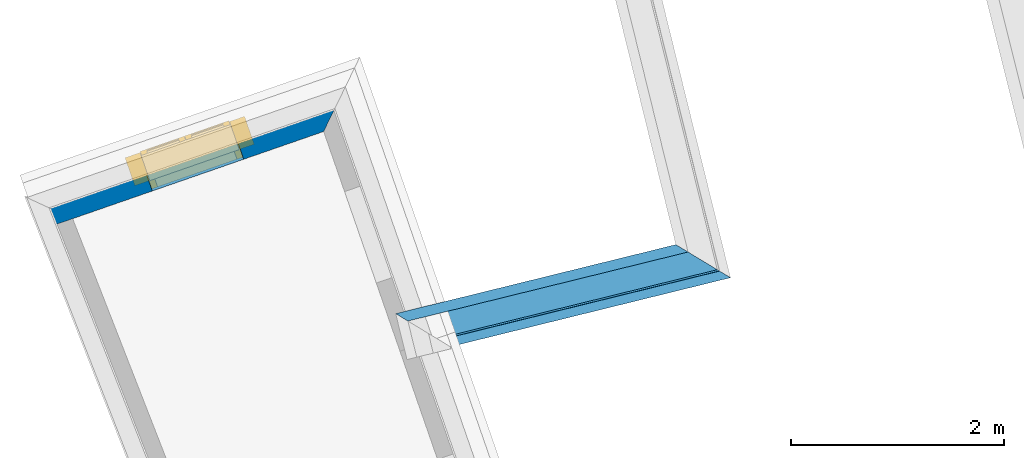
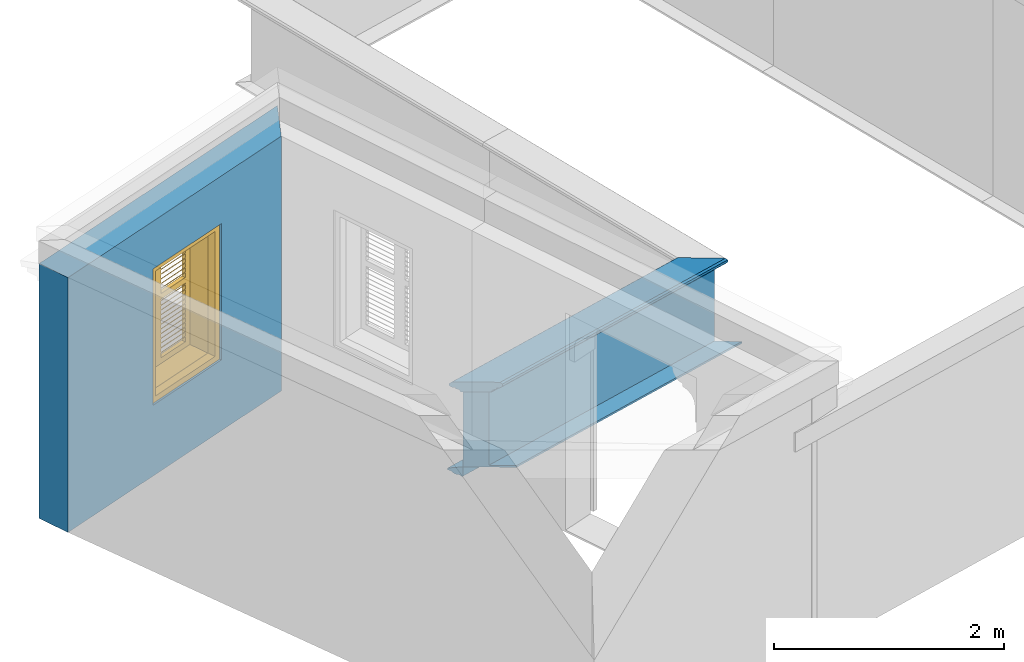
# One storey, part 2 of 5: 4 walls, 1 window, 1 opening.
"""IFC4 building model written with IfcOpenShell, lengths in metres."""

from ifc_helpers import new_model, si_unit, frame, origin, origin_with_axes, place, context, subcontext, project, spatial, polyline, outline, extrude, clip, halfspace, faceted_brep, source, transform, mapped, material, layer, layer_set, layer_usage, material_profile, profile_set, profile_usage, type_object, type_shapes, element, fill, save


model = new_model("IFC4")

# Units and contexts
model_context = context("Model", 3, world=origin_with_axes())
body_context = subcontext(model_context, "Body", "Model", "MODEL_VIEW")
ifc_project = project(units=[si_unit("PLANEANGLEUNIT", "RADIAN"), si_unit("MASSUNIT", "GRAM", prefix="KILO"), si_unit("FORCEUNIT", "NEWTON", prefix="KILO"), si_unit("LENGTHUNIT", "METRE"), si_unit("AREAUNIT", "SQUARE_METRE"), si_unit("VOLUMEUNIT", "CUBIC_METRE")], contexts=[model_context, model_context])

# Site, building, storey
site_placement = place(None, origin_with_axes())
site = spatial("IfcSite", under=ifc_project, at=site_placement, Name="Site plot-1", CompositionType="ELEMENT")
building_placement = place(None, origin_with_axes())
building = spatial("IfcBuilding", under=site, at=building_placement, Name="Building plot-1", CompositionType="ELEMENT")
storey_placement = place(None, frame((0.0, 0.0, 5.4), z_axis=(0.0, 0.0, 1.0), x_axis=(1.0, 0.0, 0.0)))
storey = spatial("IfcBuildingStorey", under=building, at=storey_placement, Name="plot-1 2", CompositionType="ELEMENT", Elevation=5.4)

# Wall, opening, window
ifc_material = material(Name="Masonry")
ifc_layer = layer(ifc_material, 0.33, ventilated=False)
ifc_layer_set = layer_set([ifc_layer], Name="exterior_0.08_0.25")
ifc_layer_usage = layer_usage(ifc_layer_set, "AXIS2", "POSITIVE", -0.25)
wall_type_1 = type_object("IfcWallType", Name="exterior_0.08_0.25", PredefinedType="SOLIDWALL", material=ifc_layer_set)
wall_1_placement = place(storey_placement, frame((-0.524368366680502, 19.9898284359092, 0.0), z_axis=(0.0, 0.0, 1.0), x_axis=(-0.944647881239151, -0.328085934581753, 0.0)))
wall_1 = element("IfcWall", 1, at=wall_1_placement, inside=storey, type_object=wall_type_1, material=ifc_layer_usage, Name="exterior", context=body_context, shape_type="SweptSolid", body=[
    extrude(outline(polyline([(0.0799999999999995, 0.0799999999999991), (-0.249999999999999, -0.249999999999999), (2.91117707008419, -0.25), (2.91117707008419, 0.0799999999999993), (0.0799999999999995, 0.0799999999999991)])), origin_with_axes(), (0.0, 0.0, 1.0), 2.7),
])
opening_placement = place(wall_1_placement, frame((0.875588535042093, 0.0, 0.75)))
opening = element("IfcOpeningElement", 2, at=opening_placement, cuts=wall_1, Name="My Opening", ObjectType="Opening", context=body_context, shape_type="SweptSolid", body=[
    extrude(outline(polyline([(0.0, -0.269999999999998), (0.909999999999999, -0.27), (0.909999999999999, 1.1), (3.33066907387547e-16, 1.1), (0.0, -0.269999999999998)])), origin_with_axes(), (0.0, 0.0, 1.0), 1.445),
])
window_type = type_object("IfcWindowType", Name="shuttered_shorter", PartitioningType="DOUBLE_PANEL_HORIZONTAL", PredefinedType="NOTDEFINED")
shared_shape = source(origin(), body_context, "Body", "Brep", [
    faceted_brep([(0.393, 0.0, 0.622), (0.074, 0.0, 0.622), (0.074, 0.0, 0.632), (0.393, 0.0, 0.632), (0.074, -0.04, 0.592), (0.393, -0.04, 0.592), (0.393, -0.04, 0.582), (0.074, -0.04, 0.582), (0.517, 0.0, 0.682), (0.836, 0.0, 0.682), (0.836, 0.0, 0.672), (0.517, 0.0, 0.672), (0.517, -0.04, 0.642), (0.836, -0.04, 0.642), (0.836, -0.04, 0.632), (0.517, -0.04, 0.632), (0.517, 0.0, 0.632), (0.836, 0.0, 0.632), (0.836, 0.0, 0.622), (0.517, 0.0, 0.622), (0.517, -0.04, 0.592), (0.836, -0.04, 0.592), (0.836, -0.04, 0.582), (0.517, -0.04, 0.582), (0.517, 0.0, 0.232), (0.836, 0.0, 0.232), (0.836, 0.0, 0.222), (0.517, 0.0, 0.222), (0.517, -0.04, 0.192), (0.836, -0.04, 0.192), (0.836, -0.04, 0.182), (0.517, -0.04, 0.182), (0.517, 0.0, 0.532), (0.836, 0.0, 0.532), (0.836, 0.0, 0.522), (0.517, 0.0, 0.522), (0.517, -0.04, 0.492), (0.836, -0.04, 0.492), (0.836, -0.04, 0.482), (0.517, -0.04, 0.482), (0.517, 0.0, 0.482), (0.836, 0.0, 0.482), (0.836, 0.0, 0.472), (0.517, 0.0, 0.472), (0.517, -0.04, 0.442), (0.836, -0.04, 0.442), (0.836, -0.04, 0.432), (0.517, -0.04, 0.432), (0.517, 0.0, 0.582), (0.836, 0.0, 0.582), (0.836, 0.0, 0.572), (0.517, 0.0, 0.572), (0.517, -0.04, 0.542), (0.836, -0.04, 0.542), (0.836, -0.04, 0.532), (0.517, -0.04, 0.532), (0.517, 0.0, 0.182), (0.836, 0.0, 0.182), (0.836, 0.0, 0.172), (0.517, 0.0, 0.172), (0.517, -0.04, 0.142), (0.836, -0.04, 0.142), (0.836, -0.04, 0.132), (0.517, -0.04, 0.132), (0.517, 0.0, 0.382), (0.836, 0.0, 0.382), (0.836, 0.0, 0.372), (0.517, 0.0, 0.372), (0.517, -0.04, 0.342), (0.836, -0.04, 0.342), (0.836, -0.04, 0.332), (0.517, -0.04, 0.332), (0.517, 0.0, 0.432), (0.836, 0.0, 0.432), (0.836, 0.0, 0.422), (0.517, 0.0, 0.422), (0.517, -0.04, 0.392), (0.836, -0.04, 0.392), (0.836, -0.04, 0.382), (0.517, -0.04, 0.382), (0.517, 0.0, 0.132), (0.836, 0.0, 0.132), (0.836, 0.0, 0.122), (0.517, 0.0, 0.122), (0.517, -0.04, 0.092), (0.836, -0.04, 0.092), (0.836, -0.04, 0.082), (0.517, -0.04, 0.082), (0.517, 0.0, 0.282), (0.836, 0.0, 0.282), (0.836, 0.0, 0.272), (0.517, 0.0, 0.272), (0.517, -0.04, 0.242), (0.836, -0.04, 0.242), (0.836, -0.04, 0.232), (0.517, -0.04, 0.232), (0.517, 0.0, 0.332), (0.836, 0.0, 0.332), (0.836, 0.0, 0.322), (0.517, 0.0, 0.322), (0.517, -0.04, 0.292), (0.836, -0.04, 0.292), (0.836, -0.04, 0.282), (0.517, -0.04, 0.282), (0.517, 0.0, 1.362667), (0.836, 0.0, 1.362667), (0.836, 0.0, 1.352667), (0.517, 0.0, 1.352667), (0.517, -0.04, 1.322667), (0.836, -0.04, 1.322667), (0.836, -0.04, 1.312667), (0.517, -0.04, 1.312667), (0.517, 0.0, 1.312667), (0.836, 0.0, 1.312667), (0.836, 0.0, 1.302667), (0.517, 0.0, 1.302667), (0.517, -0.04, 1.272667), (0.836, -0.04, 1.272667), (0.836, -0.04, 1.262667), (0.517, -0.04, 1.262667), (0.517, 0.0, 0.912667), (0.836, 0.0, 0.912667), (0.836, 0.0, 0.902667), (0.517, 0.0, 0.902667), (0.517, -0.04, 0.872667), (0.836, -0.04, 0.872667), (0.836, -0.04, 0.862667), (0.517, -0.04, 0.862667), (0.517, 0.0, 1.212667), (0.836, 0.0, 1.212667), (0.836, 0.0, 1.202667), (0.517, 0.0, 1.202667), (0.517, -0.04, 1.172667), (0.836, -0.04, 1.172667), (0.836, -0.04, 1.162667), (0.517, -0.04, 1.162667), (0.517, 0.0, 1.162667), (0.836, 0.0, 1.162667), (0.836, 0.0, 1.152667), (0.517, 0.0, 1.152667), (0.517, -0.04, 1.122667), (0.836, -0.04, 1.122667), (0.836, -0.04, 1.112667), (0.517, -0.04, 1.112667), (0.517, 0.0, 1.262667), (0.836, 0.0, 1.262667), (0.836, 0.0, 1.252667), (0.517, 0.0, 1.252667), (0.517, -0.04, 1.222667), (0.836, -0.04, 1.222667), (0.836, -0.04, 1.212667), (0.517, -0.04, 1.212667), (0.517, 0.0, 0.862667), (0.836, 0.0, 0.862667), (0.836, 0.0, 0.852667), (0.517, 0.0, 0.852667), (0.517, -0.04, 0.822667), (0.836, -0.04, 0.822667), (0.836, -0.04, 0.812667), (0.517, -0.04, 0.812667), (0.517, 0.0, 1.062667), (0.836, 0.0, 1.062667), (0.836, 0.0, 1.052667), (0.517, 0.0, 1.052667), (0.517, -0.04, 1.022667), (0.836, -0.04, 1.022667), (0.836, -0.04, 1.012667), (0.517, -0.04, 1.012667), (0.517, 0.0, 1.112667), (0.836, 0.0, 1.112667), (0.836, 0.0, 1.102667), (0.517, 0.0, 1.102667), (0.517, -0.04, 1.072667), (0.836, -0.04, 1.072667), (0.836, -0.04, 1.062667), (0.517, -0.04, 1.062667), (0.517, 0.0, 0.812667), (0.836, 0.0, 0.812667), (0.836, 0.0, 0.802667), (0.517, 0.0, 0.802667), (0.517, -0.04, 0.772667), (0.836, -0.04, 0.772667), (0.836, -0.04, 0.762667), (0.517, -0.04, 0.762667), (0.517, 0.0, 0.962667), (0.836, 0.0, 0.962667), (0.836, 0.0, 0.952667), (0.517, 0.0, 0.952667), (0.517, -0.04, 0.922667), (0.836, -0.04, 0.922667), (0.836, -0.04, 0.912667), (0.517, -0.04, 0.912667), (0.517, 0.0, 1.012667), (0.836, 0.0, 1.012667), (0.836, 0.0, 1.002667), (0.517, 0.0, 1.002667), (0.517, -0.04, 0.972667), (0.836, -0.04, 0.972667), (0.836, -0.04, 0.962667), (0.517, -0.04, 0.962667), (0.074, 0.0, 0.682), (0.393, 0.0, 0.682), (0.393, 0.0, 0.672), (0.074, 0.0, 0.672), (0.074, -0.04, 0.642), (0.393, -0.04, 0.642), (0.393, -0.04, 0.632), (0.074, -0.04, 0.632), (0.074, 0.0, 0.232), (0.393, 0.0, 0.232), (0.393, 0.0, 0.222), (0.074, 0.0, 0.222), (0.074, -0.04, 0.192), (0.393, -0.04, 0.192), (0.393, -0.04, 0.182), (0.074, -0.04, 0.182), (0.074, 0.0, 0.532), (0.393, 0.0, 0.532), (0.393, 0.0, 0.522), (0.074, 0.0, 0.522), (0.074, -0.04, 0.492), (0.393, -0.04, 0.492), (0.393, -0.04, 0.482), (0.074, -0.04, 0.482), (0.074, 0.0, 0.482), (0.393, 0.0, 0.482), (0.393, 0.0, 0.472), (0.074, 0.0, 0.472), (0.074, -0.04, 0.442), (0.393, -0.04, 0.442), (0.393, -0.04, 0.432), (0.074, -0.04, 0.432), (0.074, 0.0, 0.582), (0.393, 0.0, 0.582), (0.393, 0.0, 0.572), (0.074, 0.0, 0.572), (0.074, -0.04, 0.542), (0.393, -0.04, 0.542), (0.393, -0.04, 0.532), (0.074, -0.04, 0.532), (0.074, 0.0, 0.182), (0.393, 0.0, 0.182), (0.393, 0.0, 0.172), (0.074, 0.0, 0.172), (0.074, -0.04, 0.142), (0.393, -0.04, 0.142), (0.393, -0.04, 0.132), (0.074, -0.04, 0.132), (0.074, 0.0, 0.382), (0.393, 0.0, 0.382), (0.393, 0.0, 0.372), (0.074, 0.0, 0.372), (0.074, -0.04, 0.342), (0.393, -0.04, 0.342), (0.393, -0.04, 0.332), (0.074, -0.04, 0.332), (0.074, 0.0, 0.432), (0.393, 0.0, 0.432), (0.393, 0.0, 0.422), (0.074, 0.0, 0.422), (0.074, -0.04, 0.392), (0.393, -0.04, 0.392), (0.393, -0.04, 0.382), (0.074, -0.04, 0.382), (0.074, 0.0, 0.132), (0.393, 0.0, 0.132), (0.393, 0.0, 0.122), (0.074, 0.0, 0.122), (0.074, -0.04, 0.092), (0.393, -0.04, 0.092), (0.393, -0.04, 0.082), (0.074, -0.04, 0.082), (0.074, 0.0, 0.282), (0.393, 0.0, 0.282), (0.393, 0.0, 0.272), (0.074, 0.0, 0.272), (0.074, -0.04, 0.242), (0.393, -0.04, 0.242), (0.393, -0.04, 0.232), (0.074, -0.04, 0.232), (0.074, 0.0, 0.332), (0.393, 0.0, 0.332), (0.393, 0.0, 0.322), (0.074, 0.0, 0.322), (0.074, -0.04, 0.292), (0.393, -0.04, 0.292), (0.393, -0.04, 0.282), (0.074, -0.04, 0.282), (0.074, 0.0, 1.362667), (0.393, 0.0, 1.362667), (0.393, 0.0, 1.352667), (0.074, 0.0, 1.352667), (0.074, -0.04, 1.322667), (0.393, -0.04, 1.322667), (0.393, -0.04, 1.312667), (0.074, -0.04, 1.312667), (0.074, 0.0, 1.312667), (0.393, 0.0, 1.312667), (0.393, 0.0, 1.302667), (0.074, 0.0, 1.302667), (0.074, -0.04, 1.272667), (0.393, -0.04, 1.272667), (0.393, -0.04, 1.262667), (0.074, -0.04, 1.262667), (0.074, 0.0, 0.912667), (0.393, 0.0, 0.912667), (0.393, 0.0, 0.902667), (0.074, 0.0, 0.902667), (0.074, -0.04, 0.872667), (0.393, -0.04, 0.872667), (0.393, -0.04, 0.862667), (0.074, -0.04, 0.862667), (0.074, 0.0, 1.212667), (0.393, 0.0, 1.212667), (0.393, 0.0, 1.202667), (0.074, 0.0, 1.202667), (0.074, -0.04, 1.172667), (0.393, -0.04, 1.172667), (0.393, -0.04, 1.162667), (0.074, -0.04, 1.162667), (0.074, 0.0, 1.162667), (0.393, 0.0, 1.162667), (0.393, 0.0, 1.152667), (0.074, 0.0, 1.152667), (0.074, -0.04, 1.122667), (0.393, -0.04, 1.122667), (0.393, -0.04, 1.112667), (0.074, -0.04, 1.112667), (0.074, 0.0, 1.262667), (0.393, 0.0, 1.262667), (0.393, 0.0, 1.252667), (0.074, 0.0, 1.252667), (0.074, -0.04, 1.222667), (0.393, -0.04, 1.222667), (0.393, -0.04, 1.212667), (0.074, -0.04, 1.212667), (0.074, 0.0, 0.862667), (0.393, 0.0, 0.862667), (0.393, 0.0, 0.852667), (0.074, 0.0, 0.852667), (0.074, -0.04, 0.822667), (0.393, -0.04, 0.822667), (0.393, -0.04, 0.812667), (0.074, -0.04, 0.812667), (0.074, 0.0, 1.062667), (0.393, 0.0, 1.062667), (0.393, 0.0, 1.052667), (0.074, 0.0, 1.052667), (0.074, -0.04, 1.022667), (0.393, -0.04, 1.022667), (0.393, -0.04, 1.012667), (0.074, -0.04, 1.012667), (0.074, 0.0, 1.112667), (0.393, 0.0, 1.112667), (0.393, 0.0, 1.102667), (0.074, 0.0, 1.102667), (0.074, -0.04, 1.072667), (0.393, -0.04, 1.072667), (0.393, -0.04, 1.062667), (0.074, -0.04, 1.062667), (0.074, 0.0, 0.812667), (0.393, 0.0, 0.812667), (0.393, 0.0, 0.802667), (0.074, 0.0, 0.802667), (0.074, -0.04, 0.772667), (0.393, -0.04, 0.772667), (0.393, -0.04, 0.762667), (0.074, -0.04, 0.762667), (0.074, 0.0, 0.962667), (0.393, 0.0, 0.962667), (0.393, 0.0, 0.952667), (0.074, 0.0, 0.952667), (0.074, -0.04, 0.922667), (0.393, -0.04, 0.922667), (0.393, -0.04, 0.912667), (0.074, -0.04, 0.912667), (0.074, 0.0, 1.012667), (0.393, 0.0, 1.012667), (0.393, 0.0, 1.002667), (0.074, 0.0, 1.002667), (0.074, -0.04, 0.972667), (0.393, -0.04, 0.972667), (0.393, -0.04, 0.962667), (0.074, -0.04, 0.962667), (0.517, -0.04, 0.072), (0.457, -0.04, 0.012), (0.896, -0.04, 0.012), (0.836, -0.04, 0.072), (0.457, -0.04, 0.692667), (0.517, -0.04, 0.692667), (0.457, 0.0, 0.012), (0.896, 0.0, 0.012), (0.836, -0.04, 0.692667), (0.896, -0.04, 0.692667), (0.836, 0.0, 0.072), (0.517, 0.0, 0.072), (0.457, 0.0, 0.692667), (0.517, 0.0, 0.692667), (0.517, -0.04, 0.752666), (0.457, -0.04, 0.752666), (0.896, 0.0, 0.692667), (0.836, 0.0, 0.692667), (0.836, -0.04, 0.752666), (0.896, -0.04, 0.752666), (0.457, 0.0, 0.752666), (0.457, -0.04, 1.433333), (0.517, -0.04, 1.373333), (0.896, 0.0, 0.752666), (0.836, -0.04, 1.373333), (0.896, -0.04, 1.433333), (0.457, 0.0, 1.433333), (0.517, 0.0, 0.752666), (0.836, 0.0, 0.752666), (0.517, 0.0, 1.373333), (0.896, 0.0, 1.433333), (0.836, 0.0, 1.373333), (0.074, -0.04, 0.072), (0.014, -0.04, 0.012), (0.453, -0.04, 0.012), (0.393, -0.04, 0.072), (0.014, -0.04, 0.692667), (0.074, -0.04, 0.692667), (0.014, 0.0, 0.012), (0.453, 0.0, 0.012), (0.393, -0.04, 0.692667), (0.453, -0.04, 0.692667), (0.393, 0.0, 0.072), (0.074, 0.0, 0.072), (0.014, 0.0, 0.692667), (0.074, 0.0, 0.692667), (0.074, -0.04, 0.752666), (0.014, -0.04, 0.752666), (0.453, 0.0, 0.692667), (0.393, 0.0, 0.692667), (0.393, -0.04, 0.752666), (0.453, -0.04, 0.752666), (0.014, 0.0, 0.752666), (0.014, -0.04, 1.433333), (0.074, -0.04, 1.373333), (0.453, 0.0, 0.752666), (0.393, -0.04, 1.373333), (0.453, -0.04, 1.433333), (0.014, 0.0, 1.433333), (0.074, 0.0, 0.752666), (0.393, 0.0, 0.752666), (0.074, 0.0, 1.373333), (0.453, 0.0, 1.433333), (0.393, 0.0, 1.373333), (0.0, 0.33, 1.445), (0.91, 0.33, 1.445), (0.85, 0.33, 1.385), (0.06, 0.33, 1.385), (0.91, 0.25, 1.445), (0.0, 0.25, 1.445), (0.91, 0.25, 1.445), (0.85, 0.33, 0.06), (0.91, 0.33, 0.0), (0.85, 0.25, 1.385), (0.06, 0.25, 1.385), (0.0, 0.33, 0.0), (0.06, 0.33, 0.06), (0.0, 0.25, 0.0), (0.91, 0.25, 0.0), (0.85, 0.25, 0.06), (0.06, 0.25, 0.06), (1.05, 0.25, 1.585), (-0.14, 0.25, 1.585), (-0.14, -0.03, 1.585), (1.05, -0.03, 1.585), (0.9, -0.03, 1.435), (0.01, -0.03, 1.435), (0.01, 0.25, 1.435), (0.9, 0.25, 1.435), (0.9, 0.25, 0.01), (0.9, -0.03, 0.01), (1.05, -0.03, -0.14), (1.05, 0.25, -0.14), (0.01, -0.03, 0.01), (0.01, 0.25, 0.01), (-0.14, -0.03, -0.14), (-0.14, 0.25, -0.14)], [[[0, 1, 2, 3]], [[4, 5, 3, 2]], [[5, 6, 0, 3]], [[1, 0, 6, 7]], [[2, 1, 7, 4]], [[5, 4, 7, 6]], [[8, 9, 10, 11]], [[12, 13, 9, 8]], [[13, 14, 10, 9]], [[14, 15, 11, 10]], [[15, 12, 8, 11]], [[13, 12, 15, 14]], [[16, 17, 18, 19]], [[20, 21, 17, 16]], [[21, 22, 18, 17]], [[22, 23, 19, 18]], [[23, 20, 16, 19]], [[21, 20, 23, 22]], [[24, 25, 26, 27]], [[28, 29, 25, 24]], [[29, 30, 26, 25]], [[30, 31, 27, 26]], [[31, 28, 24, 27]], [[29, 28, 31, 30]], [[32, 33, 34, 35]], [[36, 37, 33, 32]], [[37, 38, 34, 33]], [[38, 39, 35, 34]], [[39, 36, 32, 35]], [[37, 36, 39, 38]], [[40, 41, 42, 43]], [[44, 45, 41, 40]], [[45, 46, 42, 41]], [[46, 47, 43, 42]], [[47, 44, 40, 43]], [[45, 44, 47, 46]], [[48, 49, 50, 51]], [[52, 53, 49, 48]], [[53, 54, 50, 49]], [[54, 55, 51, 50]], [[55, 52, 48, 51]], [[53, 52, 55, 54]], [[56, 57, 58, 59]], [[60, 61, 57, 56]], [[61, 62, 58, 57]], [[62, 63, 59, 58]], [[63, 60, 56, 59]], [[61, 60, 63, 62]], [[64, 65, 66, 67]], [[68, 69, 65, 64]], [[69, 70, 66, 65]], [[70, 71, 67, 66]], [[71, 68, 64, 67]], [[69, 68, 71, 70]], [[72, 73, 74, 75]], [[76, 77, 73, 72]], [[77, 78, 74, 73]], [[78, 79, 75, 74]], [[79, 76, 72, 75]], [[77, 76, 79, 78]], [[80, 81, 82, 83]], [[84, 85, 81, 80]], [[85, 86, 82, 81]], [[86, 87, 83, 82]], [[87, 84, 80, 83]], [[85, 84, 87, 86]], [[88, 89, 90, 91]], [[92, 93, 89, 88]], [[93, 94, 90, 89]], [[94, 95, 91, 90]], [[95, 92, 88, 91]], [[93, 92, 95, 94]], [[96, 97, 98, 99]], [[100, 101, 97, 96]], [[101, 102, 98, 97]], [[102, 103, 99, 98]], [[103, 100, 96, 99]], [[101, 100, 103, 102]], [[104, 105, 106, 107]], [[108, 109, 105, 104]], [[109, 110, 106, 105]], [[110, 111, 107, 106]], [[111, 108, 104, 107]], [[109, 108, 111, 110]], [[112, 113, 114, 115]], [[116, 117, 113, 112]], [[117, 118, 114, 113]], [[118, 119, 115, 114]], [[119, 116, 112, 115]], [[117, 116, 119, 118]], [[120, 121, 122, 123]], [[124, 125, 121, 120]], [[125, 126, 122, 121]], [[126, 127, 123, 122]], [[127, 124, 120, 123]], [[125, 124, 127, 126]], [[128, 129, 130, 131]], [[132, 133, 129, 128]], [[133, 134, 130, 129]], [[134, 135, 131, 130]], [[135, 132, 128, 131]], [[133, 132, 135, 134]], [[136, 137, 138, 139]], [[140, 141, 137, 136]], [[141, 142, 138, 137]], [[142, 143, 139, 138]], [[139, 143, 140, 136]], [[141, 140, 143, 142]], [[144, 145, 146, 147]], [[148, 149, 145, 144]], [[149, 150, 146, 145]], [[150, 151, 147, 146]], [[151, 148, 144, 147]], [[149, 148, 151, 150]], [[152, 153, 154, 155]], [[156, 157, 153, 152]], [[157, 158, 154, 153]], [[158, 159, 155, 154]], [[159, 156, 152, 155]], [[157, 156, 159, 158]], [[160, 161, 162, 163]], [[164, 165, 161, 160]], [[165, 166, 162, 161]], [[166, 167, 163, 162]], [[167, 164, 160, 163]], [[165, 164, 167, 166]], [[168, 169, 170, 171]], [[172, 173, 169, 168]], [[173, 174, 170, 169]], [[174, 175, 171, 170]], [[175, 172, 168, 171]], [[173, 172, 175, 174]], [[176, 177, 178, 179]], [[180, 181, 177, 176]], [[181, 182, 178, 177]], [[182, 183, 179, 178]], [[183, 180, 176, 179]], [[181, 180, 183, 182]], [[184, 185, 186, 187]], [[188, 189, 185, 184]], [[189, 190, 186, 185]], [[190, 191, 187, 186]], [[191, 188, 184, 187]], [[189, 188, 191, 190]], [[192, 193, 194, 195]], [[196, 197, 193, 192]], [[197, 198, 194, 193]], [[198, 199, 195, 194]], [[199, 196, 192, 195]], [[197, 196, 199, 198]], [[200, 201, 202, 203]], [[204, 205, 201, 200]], [[205, 206, 202, 201]], [[206, 207, 203, 202]], [[207, 204, 200, 203]], [[205, 204, 207, 206]], [[208, 209, 210, 211]], [[212, 213, 209, 208]], [[213, 214, 210, 209]], [[214, 215, 211, 210]], [[215, 212, 208, 211]], [[213, 212, 215, 214]], [[216, 217, 218, 219]], [[220, 221, 217, 216]], [[221, 222, 218, 217]], [[222, 223, 219, 218]], [[223, 220, 216, 219]], [[221, 220, 223, 222]], [[224, 225, 226, 227]], [[228, 229, 225, 224]], [[229, 230, 226, 225]], [[230, 231, 227, 226]], [[231, 228, 224, 227]], [[229, 228, 231, 230]], [[232, 233, 234, 235]], [[236, 237, 233, 232]], [[237, 238, 234, 233]], [[238, 239, 235, 234]], [[239, 236, 232, 235]], [[237, 236, 239, 238]], [[240, 241, 242, 243]], [[244, 245, 241, 240]], [[245, 246, 242, 241]], [[246, 247, 243, 242]], [[247, 244, 240, 243]], [[245, 244, 247, 246]], [[248, 249, 250, 251]], [[252, 253, 249, 248]], [[253, 254, 250, 249]], [[254, 255, 251, 250]], [[255, 252, 248, 251]], [[253, 252, 255, 254]], [[256, 257, 258, 259]], [[260, 261, 257, 256]], [[261, 262, 258, 257]], [[262, 263, 259, 258]], [[263, 260, 256, 259]], [[261, 260, 263, 262]], [[264, 265, 266, 267]], [[268, 269, 265, 264]], [[269, 270, 266, 265]], [[270, 271, 267, 266]], [[271, 268, 264, 267]], [[269, 268, 271, 270]], [[272, 273, 274, 275]], [[276, 277, 273, 272]], [[277, 278, 274, 273]], [[278, 279, 275, 274]], [[279, 276, 272, 275]], [[277, 276, 279, 278]], [[280, 281, 282, 283]], [[284, 285, 281, 280]], [[285, 286, 282, 281]], [[286, 287, 283, 282]], [[287, 284, 280, 283]], [[285, 284, 287, 286]], [[288, 289, 290, 291]], [[292, 293, 289, 288]], [[293, 294, 290, 289]], [[294, 295, 291, 290]], [[295, 292, 288, 291]], [[293, 292, 295, 294]], [[296, 297, 298, 299]], [[300, 301, 297, 296]], [[301, 302, 298, 297]], [[302, 303, 299, 298]], [[303, 300, 296, 299]], [[301, 300, 303, 302]], [[304, 305, 306, 307]], [[308, 309, 305, 304]], [[309, 310, 306, 305]], [[310, 311, 307, 306]], [[311, 308, 304, 307]], [[309, 308, 311, 310]], [[312, 313, 314, 315]], [[316, 317, 313, 312]], [[317, 318, 314, 313]], [[318, 319, 315, 314]], [[319, 316, 312, 315]], [[317, 316, 319, 318]], [[320, 321, 322, 323]], [[324, 325, 321, 320]], [[325, 326, 322, 321]], [[326, 327, 323, 322]], [[327, 324, 320, 323]], [[325, 324, 327, 326]], [[328, 329, 330, 331]], [[332, 333, 329, 328]], [[333, 334, 330, 329]], [[334, 335, 331, 330]], [[335, 332, 328, 331]], [[333, 332, 335, 334]], [[336, 337, 338, 339]], [[340, 341, 337, 336]], [[341, 342, 338, 337]], [[342, 343, 339, 338]], [[343, 340, 336, 339]], [[341, 340, 343, 342]], [[344, 345, 346, 347]], [[348, 349, 345, 344]], [[349, 350, 346, 345]], [[350, 351, 347, 346]], [[351, 348, 344, 347]], [[349, 348, 351, 350]], [[352, 353, 354, 355]], [[356, 357, 353, 352]], [[357, 358, 354, 353]], [[358, 359, 355, 354]], [[359, 356, 352, 355]], [[357, 356, 359, 358]], [[360, 361, 362, 363]], [[364, 365, 361, 360]], [[365, 366, 362, 361]], [[366, 367, 363, 362]], [[367, 364, 360, 363]], [[365, 364, 367, 366]], [[368, 369, 370, 371]], [[372, 373, 369, 368]], [[373, 374, 370, 369]], [[374, 375, 371, 370]], [[375, 372, 368, 371]], [[373, 372, 375, 374]], [[376, 377, 378, 379]], [[380, 381, 377, 376]], [[381, 382, 378, 377]], [[382, 383, 379, 378]], [[383, 380, 376, 379]], [[381, 380, 383, 382]], [[384, 385, 386, 387]], [[388, 385, 384, 389]], [[390, 391, 386, 385]], [[392, 387, 386, 393]], [[384, 387, 394, 395]], [[390, 385, 388, 396]], [[389, 384, 395, 397]], [[389, 398, 399, 388]], [[390, 395, 394, 391]], [[400, 393, 386, 391]], [[387, 392, 401, 394]], [[402, 392, 393, 403]], [[396, 388, 399, 404]], [[390, 396, 397, 395]], [[392, 389, 397, 401]], [[398, 389, 392, 402]], [[405, 399, 398, 406]], [[394, 401, 400, 391]], [[407, 403, 393, 400]], [[408, 402, 403, 409]], [[404, 399, 405, 410]], [[411, 397, 396, 404]], [[397, 411, 412, 401]], [[398, 402, 412, 411]], [[406, 398, 411, 413]], [[405, 406, 408, 409]], [[401, 412, 407, 400]], [[414, 409, 403, 407]], [[402, 408, 415, 412]], [[405, 409, 414, 410]], [[404, 410, 413, 411]], [[408, 406, 413, 415]], [[412, 415, 414, 407]], [[413, 410, 414, 415]], [[416, 417, 418, 419]], [[420, 417, 416, 421]], [[422, 423, 418, 417]], [[424, 419, 418, 425]], [[416, 419, 426, 427]], [[422, 417, 420, 428]], [[421, 416, 427, 429]], [[421, 430, 431, 420]], [[422, 427, 426, 423]], [[432, 425, 418, 423]], [[419, 424, 433, 426]], [[434, 424, 425, 435]], [[428, 420, 431, 436]], [[422, 428, 429, 427]], [[424, 421, 429, 433]], [[430, 421, 424, 434]], [[437, 431, 430, 438]], [[426, 433, 432, 423]], [[439, 435, 425, 432]], [[440, 434, 435, 441]], [[436, 431, 437, 442]], [[443, 429, 428, 436]], [[429, 443, 444, 433]], [[430, 434, 444, 443]], [[438, 430, 443, 445]], [[437, 438, 440, 441]], [[433, 444, 439, 432]], [[446, 441, 435, 439]], [[434, 440, 447, 444]], [[437, 441, 446, 442]], [[436, 442, 445, 443]], [[440, 438, 445, 447]], [[444, 447, 446, 439]], [[445, 442, 446, 447]], [[448, 449, 450, 451]], [[452, 449, 448]], [[448, 453, 454]], [[448, 454, 452]], [[455, 450, 449, 456]], [[451, 450, 457, 458]], [[459, 448, 451, 460]], [[448, 459, 461, 453]], [[454, 453, 458, 457]], [[462, 452, 454]], [[454, 457, 463]], [[454, 463, 462]], [[456, 449, 452, 462]], [[450, 455, 463, 457]], [[456, 459, 460, 455]], [[460, 451, 458, 464]], [[459, 456, 462, 461]], [[464, 458, 453, 461]], [[461, 462, 463, 464]], [[455, 460, 464, 463]], [[465, 466, 467, 468]], [[469, 470, 471, 472]], [[473, 474, 469, 472]], [[465, 468, 475, 476]], [[470, 477, 478, 471]], [[474, 473, 478, 477]], [[474, 477, 479, 475]], [[470, 467, 479, 477]], [[470, 469, 468, 467]], [[474, 475, 468, 469]], [[471, 478, 480, 466]], [[473, 472, 465, 476]], [[473, 476, 480, 478]], [[466, 465, 472, 471]], [[480, 476, 475, 479]], [[480, 479, 467, 466]]]),
])
type_shapes(window_type, [shared_shape])
window_placement = place(storey_placement, frame((-1.44007442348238, 19.9576150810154, 0.75), z_axis=(0.0, 0.0, 1.0), x_axis=(-0.859629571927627, -0.298558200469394, 0.0)))
window = element("IfcWindow", 3, at=window_placement, inside=storey, type_object=window_type, Name="circulation outside window", OverallHeight=1.445, OverallWidth=0.91, context=body_context, shape_type="MappedRepresentation", body=[
    mapped(shared_shape, transform((0.0, 0.0, 0.0), scale=1.0)),
])
fill(opening, window)

# Walls
ifc_material_profile_1 = material_profile(None, outline(polyline([(0.25, 0.0), (0.25, 0.795), (0.09, 0.795), (0.09, 0.02), (-0.08, 0.02), (-0.08, 0.0), (0.25, 0.0)])))
ifc_profile_set_1 = profile_set([ifc_material_profile_1])
ifc_profile_usage_1 = profile_usage(ifc_profile_set_1)
wall_type_2 = type_object("IfcWallType", Name="parapet internal_0", PredefinedType="PARAPET", material=ifc_profile_set_1)
wall_2_placement = place(storey_placement, frame((-0.45096894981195, 17.6844138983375, 0.0), z_axis=(0.970961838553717, 0.239234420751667, 0.0), x_axis=(-0.239234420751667, 0.970961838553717, 0.0)))
element("IfcWall", 4, at=wall_2_placement, inside=storey, type_object=wall_type_2, material=ifc_profile_usage_1, Name="parapet internal_0", context=body_context, shape_type="Clipping", body=[
    clip(clip(extrude(outline(polyline([(0.25, 0.0), (0.25, 0.795), (0.09, 0.795), (0.09, 0.02), (-0.08, 0.02), (-0.08, 0.0), (0.25, 0.0)])), origin_with_axes(), (0.0, 0.0, 1.0), 4.71253194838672), halfspace(frame((0.0, 0.0, 3.71253194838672), z_axis=(-0.707106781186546, 0.0, -0.707106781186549), x_axis=(0.0, 1.0, 0.0)), True)), halfspace(frame((0.0, 0.0, 1.0), z_axis=(-0.707106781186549, 0.0, -0.707106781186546), x_axis=(0.0, 1.0, 0.0)), False)),
])
ifc_material_profile_2 = material_profile(None, outline(polyline([(0.265, 0.795), (0.268, 0.807), (0.274, 0.816), (0.283, 0.822), (0.295, 0.825), (0.295, 0.84), (0.305, 0.84), (0.317, 0.842), (0.326, 0.849), (0.333, 0.858), (0.335, 0.87), (0.333, 0.882), (0.326, 0.891), (0.317, 0.898), (0.305, 0.9), (0.035, 0.9), (0.023, 0.898), (0.014, 0.891), (0.007, 0.882), (0.005, 0.87), (0.007, 0.858), (0.014, 0.849), (0.023, 0.842), (0.035, 0.84), (0.045, 0.84), (0.045, 0.825), (0.057, 0.822), (0.066, 0.816), (0.072, 0.807), (0.075, 0.795), (0.265, 0.795)])))
ifc_profile_set_2 = profile_set([ifc_material_profile_2])
ifc_profile_usage_2 = profile_usage(ifc_profile_set_2)
wall_type_3 = type_object("IfcWallType", Name="parapet internal_1", PredefinedType="PARAPET", material=ifc_profile_set_2)
wall_3_placement = place(storey_placement, frame((-0.45096894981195, 17.6844138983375, 0.0), z_axis=(0.970961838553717, 0.239234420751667, 0.0), x_axis=(-0.239234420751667, 0.970961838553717, 0.0)))
element("IfcWall", 5, at=wall_3_placement, inside=storey, type_object=wall_type_3, material=ifc_profile_usage_2, Name="parapet internal_1", context=body_context, shape_type="Clipping", body=[
    clip(clip(extrude(outline(polyline([(0.265, 0.795), (0.268, 0.807), (0.274, 0.816), (0.283, 0.822), (0.295, 0.825), (0.295, 0.84), (0.305, 0.84), (0.317, 0.842), (0.326, 0.849), (0.333, 0.858), (0.335, 0.87), (0.333, 0.882), (0.326, 0.891), (0.317, 0.898), (0.305, 0.9), (0.035, 0.9), (0.023, 0.898), (0.014, 0.891), (0.007, 0.882), (0.005, 0.87), (0.007, 0.858), (0.014, 0.849), (0.023, 0.842), (0.035, 0.84), (0.045, 0.84), (0.045, 0.825), (0.057, 0.822), (0.066, 0.816), (0.072, 0.807), (0.075, 0.795), (0.265, 0.795)])), origin_with_axes(), (0.0, 0.0, 1.0), 4.71253194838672), halfspace(frame((0.0, 0.0, 3.71253194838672), z_axis=(-0.707106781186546, 0.0, -0.707106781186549), x_axis=(0.0, 1.0, 0.0)), True)), halfspace(frame((0.0, 0.0, 1.0), z_axis=(-0.707106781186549, 0.0, -0.707106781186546), x_axis=(0.0, 1.0, 0.0)), False)),
])
ifc_material_profile_3 = material_profile(None, outline(polyline([(0.25, -0.1), (0.265, -0.1), (0.265, -0.085), (0.278, -0.084), (0.289, -0.081), (0.301, -0.074), (0.309, -0.065), (0.315, -0.055), (0.324, -0.044), (0.334, -0.038), (0.345, -0.035), (0.345, -0.015), (0.25, 0.0), (0.25, -0.1)])))
ifc_profile_set_3 = profile_set([ifc_material_profile_3])
ifc_profile_usage_3 = profile_usage(ifc_profile_set_3)
wall_type_4 = type_object("IfcWallType", Name="parapet internal_2", PredefinedType="PARAPET", material=ifc_profile_set_3)
wall_4_placement = place(storey_placement, frame((-0.45096894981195, 17.6844138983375, 0.0), z_axis=(0.970961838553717, 0.239234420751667, 0.0), x_axis=(-0.239234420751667, 0.970961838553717, 0.0)))
element("IfcWall", 6, at=wall_4_placement, inside=storey, type_object=wall_type_4, material=ifc_profile_usage_3, Name="parapet internal_2", context=body_context, shape_type="Clipping", body=[
    clip(clip(extrude(outline(polyline([(0.25, -0.1), (0.265, -0.1), (0.265, -0.085), (0.278, -0.084), (0.289, -0.081), (0.301, -0.074), (0.309, -0.065), (0.315, -0.055), (0.324, -0.044), (0.334, -0.038), (0.345, -0.035), (0.345, -0.015), (0.25, 0.0), (0.25, -0.1)])), origin_with_axes(), (0.0, 0.0, 1.0), 4.71253194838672), halfspace(frame((0.0, 0.0, 3.71253194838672), z_axis=(-0.707106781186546, 0.0, -0.707106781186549), x_axis=(0.0, 1.0, 0.0)), True)), halfspace(frame((0.0, 0.0, 1.0), z_axis=(-0.707106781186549, 0.0, -0.707106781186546), x_axis=(0.0, 1.0, 0.0)), False)),
])

save(model, "model.ifc")
